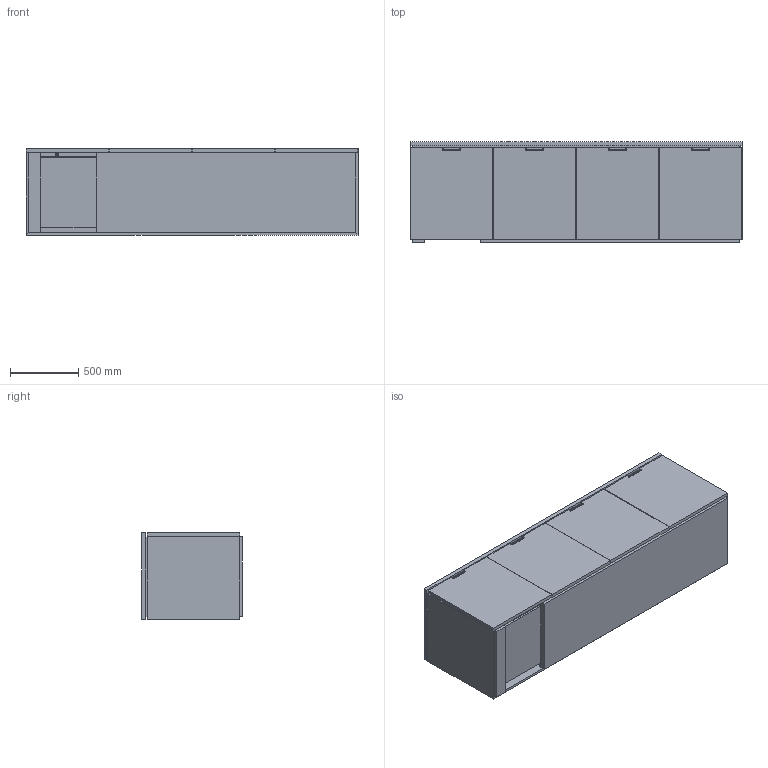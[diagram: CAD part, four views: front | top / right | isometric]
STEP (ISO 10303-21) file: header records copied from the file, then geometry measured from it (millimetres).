
FILE_DESCRIPTION(/* description */ ('','CAx-IF Rec.Pracs.---Representation and Presentation of Product Manufacturing Information (PMI)---4.0---2014-10-13'),/* implementation_level */ '2;1');
FILE_NAME(/* name */ 'BASYS^CS1.stp',/* time_stamp */ '2024-12-05T18:10:15-05:00',/* author */ ('mbowman'),/* organization */ (''),/* preprocessor_version */ 'ST-DEVELOPER v19.2',/* originating_system */ 'Autodesk Inventor 2023',/* authorisation */ '');
FILE_SCHEMA (('AP242_MANAGED_MODEL_BASED_3D_ENGINEERING_MIM_LF { 1 0 10303 442 1 1 4 }'));
Products named in the file (48): BASYS^CREDENZA 1_INTERNAL DETAILS-ASSEMBLY; BASYS^CREDENZA 1_INTERNAL DETAILS-OVERLAY TOP; BASYS^CREDENZA 1_INTERNAL DETAILS-SUB TOP; BASYS^CREDENZA 1_INTERNAL DETAILS-RIGHT END; BASYS^CREDENZA 1_INTERNAL DETAILS-LEFT END; BASYS^CREDENZA 1_INTERNAL DETAILS-BACK; BASYS^CREDENZA 1_INTERNAL DETAILS-RT BOTTOM; BASYS^CREDENZA 1_INTERNAL DETAILS-LEFT BOTTOM; BASYS^CREDENZA 1_INTERNAL DETAILS-RT PART; BASYS^CREDENZA 1_INTERNAL DETAILS-CTR PART; BASYS^CREDENZA 1_INTERNAL DETAILS-LT PART; BASYS^CREDENZA 1_INTERNAL DETAILS-INTERNAL BOTTOM; BASYS^CREDENZA 1_INTERNAL DETAILS-LT END DOOR; BASYS^CREDENZA 1_INTERNAL DETAILS-LT CTR DOOR; BASYS^CREDENZA 1_INTERNAL DETAILS-RT CTR DOOR; BASYS^CREDENZA 1_INTERNAL DETAILS-RT END DOOR; PULL 2518; CRD065N1C000__; 007-11 ASSIEME BAULETTO; 007-11 SCHIENA DR65NF; 007-11 FIANCO; 007-11 CORNICE CR65; 007-11 ASSIEME PORTA DRAWER PANNELLABILE_CRD065N-C; 007-11  profilo guarnizione CR65; 007-11  TAPPO 20_5 FORO SCHIUMATA; 007-11 PORTA DRAWER PANNELLABILE_CR65 SP 0.4mm; 007-11 RINFORZO SCROCCHETTO 134052003; 007-11 flangia fissaggio drawer porta customizzabile 49-55-65; Tapping screw DIN 7049-ST3.5x13-C-H-N_Tapping screw DIN 7049-ST3.5x13
-C-H-N; piedino-D25-h10; INGOMBRO UNITA DC; TOP DRAWER (VISUAL ONLY); MID DRAWER (VISUAL ONLY); BOTTOM DRAWER (VISUAL ONLY); 2024_09_18_13_12_22_0437; 2024_09_18_13_12_22_0718; 2024_09_18_13_12_22_0687; 2024_09_18_13_12_22_0672; 2024_09_18_13_12_22_0656; 2024_09_18_13_12_22_0640 ...
Assembly tree (61 placements, depth 4):
  BASYS^CREDENZA 1_INTERNAL DETAILS-ASSEMBLY
    BASYS^CREDENZA 1_INTERNAL DETAILS-OVERLAY TOP
    BASYS^CREDENZA 1_INTERNAL DETAILS-SUB TOP
    BASYS^CREDENZA 1_INTERNAL DETAILS-RIGHT END
    BASYS^CREDENZA 1_INTERNAL DETAILS-LEFT END
    BASYS^CREDENZA 1_INTERNAL DETAILS-BACK
    BASYS^CREDENZA 1_INTERNAL DETAILS-RT BOTTOM
    BASYS^CREDENZA 1_INTERNAL DETAILS-LEFT BOTTOM
    BASYS^CREDENZA 1_INTERNAL DETAILS-RT PART
    BASYS^CREDENZA 1_INTERNAL DETAILS-CTR PART
    BASYS^CREDENZA 1_INTERNAL DETAILS-LT PART
    BASYS^CREDENZA 1_INTERNAL DETAILS-INTERNAL BOTTOM
    BASYS^CREDENZA 1_INTERNAL DETAILS-LT END DOOR
    BASYS^CREDENZA 1_INTERNAL DETAILS-LT CTR DOOR
    BASYS^CREDENZA 1_INTERNAL DETAILS-RT CTR DOOR
    BASYS^CREDENZA 1_INTERNAL DETAILS-RT END DOOR
    PULL 2518  x4
    CRD065N1C000__
      007-11 ASSIEME BAULETTO
        007-11 FIANCO  x2
        007-11 SCHIENA DR65NF
        007-11 CORNICE CR65
      007-11 ASSIEME PORTA DRAWER PANNELLABILE_CRD065N-C
        007-11  profilo guarnizione CR65
        007-11  TAPPO 20_5 FORO SCHIUMATA
        007-11 PORTA DRAWER PANNELLABILE_CR65 SP 0.4mm
        007-11 RINFORZO SCROCCHETTO 134052003  x2
      007-11 flangia fissaggio drawer porta customizzabile 49-55-65  x2
      Tapping screw DIN 7049-ST3.5x13-C-H-N_Tapping screw DIN 7049-ST3.5x13
-C-H-N  x6
      piedino-D25-h10  x4
      INGOMBRO UNITA DC
      TOP DRAWER (VISUAL ONLY)
      MID DRAWER (VISUAL ONLY)
      BOTTOM DRAWER (VISUAL ONLY)
    2024_09_18_13_12_22_0437
      2024_09_18_13_12_22_0718
      2024_09_18_13_12_22_0687
      2024_09_18_13_12_22_0672
      2024_09_18_13_12_22_0656
      2024_09_18_13_12_22_0640
      2024_09_18_13_12_22_0625
      2024_09_18_13_12_22_0609
      2024_09_18_13_12_22_0593
      2024_09_18_13_12_22_0578
      2024_09_18_13_12_22_0562
      2024_09_18_13_12_22_0547
      2024_09_18_13_12_22_0531
      2024_09_18_13_12_22_0515
Bounding box: 2438.4 x 736.6 x 635.51 mm (x, y, z)
Volume: 259338283.7 mm3; surface area: 29063958.9 mm2
Topology: 87 solids, 92 shells, 3422 faces, 9085 edges, 5835 vertices
Faces by surface type: plane 2191, cylinder 964, torus 110, cone 100, sphere 39, bspline 18
Full cylindrical faces by diameter (mm): 0 x1, 2.5 x38, 3 x2, 3.5 x10, 3.75 x1, 4 x12, 4.134 x6, 4.25 x8, 4.762 x98, 5 x14, 5.5 x4, 5.9 x6, 6 x2, 6.35 x4, 6.8 x12, 7 x6, 8 x6, 8.4 x12, 10 x4, 12 x4, 19.5 x1, 20 x6, 20.5 x1, 24.5 x1, 30 x3
Entity records: 105272 total; most frequent: CARTESIAN_POINT 19767, DIRECTION 17985, ORIENTED_EDGE 16356, EDGE_CURVE 8178, AXIS2_PLACEMENT_3D 6084, LINE 5817, VECTOR 5817, VERTEX_POINT 5267
